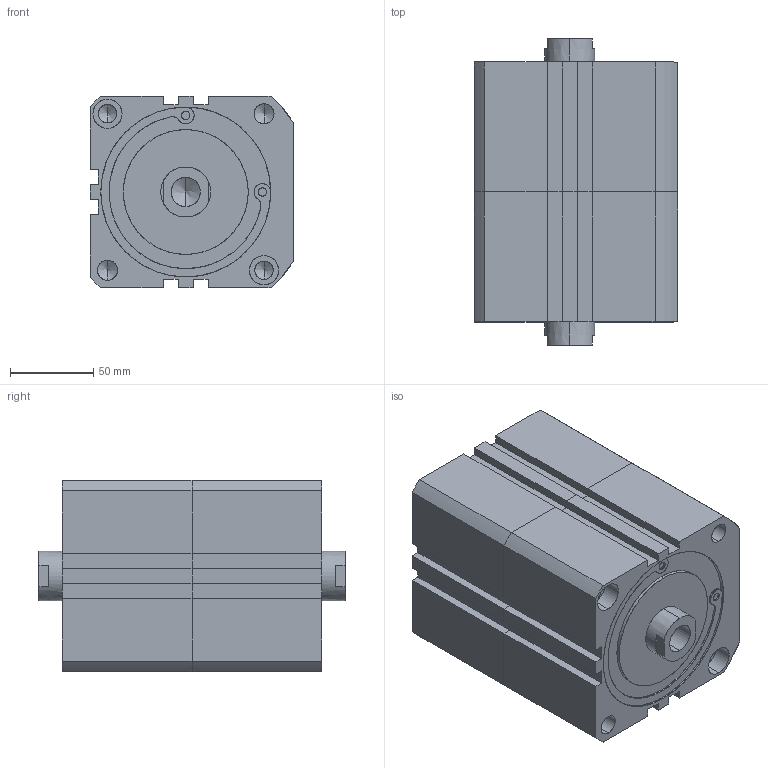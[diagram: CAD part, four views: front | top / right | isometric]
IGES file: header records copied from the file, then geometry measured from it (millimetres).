
Start section: SolidWorks IGES file using analytic representation for surfaces
Global section: file name: C:\Users\Toshiba\Desktop\XGD7-100-10-10(L).IGS; native system: SolidWorks 2014; preprocessor: SolidWorks 2014; author: Toshiba; date: 160805.094539; units: millimetre
Bounding box: 122.5 x 184 x 115 mm (x, y, z)
Surface area: 166771.3 mm2 (no closed solid volume)
Topology: 0 solids, 0 shells, 222 faces, 3726 edges, 3698 vertices
Faces by surface type: revolution 130, bspline 92
